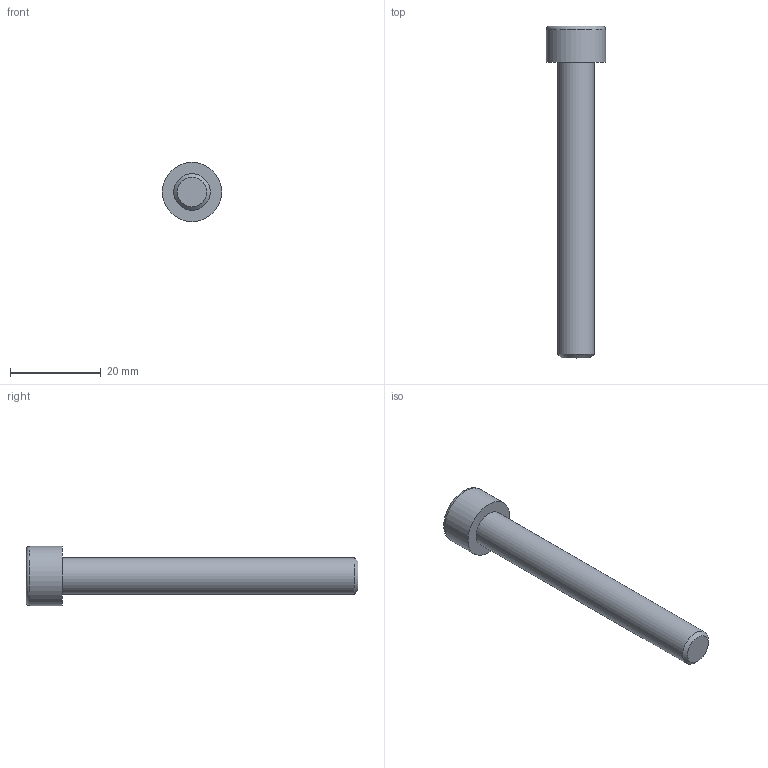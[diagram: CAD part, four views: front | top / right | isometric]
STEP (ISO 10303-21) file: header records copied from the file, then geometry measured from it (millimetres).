
FILE_DESCRIPTION(/* description */ (''),/* implementation_level */ '2;1');
FILE_NAME(/* name */ 'C:\Users\D\Documents\Inventor\各種小物\JIS\JIS B 1176 六角穴付きボルト\M8x65.stp',/* time_stamp */ '2022-05-09T18:52:23+09:00',/* author */ ('D'),/* organization */ (''),/* preprocessor_version */ 'ST-DEVELOPER v18',/* originating_system */ 'Autodesk Inventor 2020',/* authorisation */ '');
FILE_SCHEMA (('AUTOMOTIVE_DESIGN { 1 0 10303 214 3 1 1 }'));
Length unit declared in the file: millimetre
Products named in the file (1): M1.6x2.5
Bounding box: 13 x 73 x 13 mm (x, y, z)
Volume: 4167.5 mm3; surface area: 2291 mm2
Topology: 1 solids, 1 shells, 14 faces, 33 edges, 22 vertices
Faces by surface type: plane 9, cone 2, cylinder 2, torus 1
Full cylindrical faces by diameter (mm): 8 x1, 13 x1
Entity records: 435 total; most frequent: CARTESIAN_POINT 83, ORIENTED_EDGE 64, DIRECTION 64, EDGE_CURVE 32, AXIS2_PLACEMENT_3D 24, VERTEX_POINT 22, EDGE_LOOP 16, LINE 16
